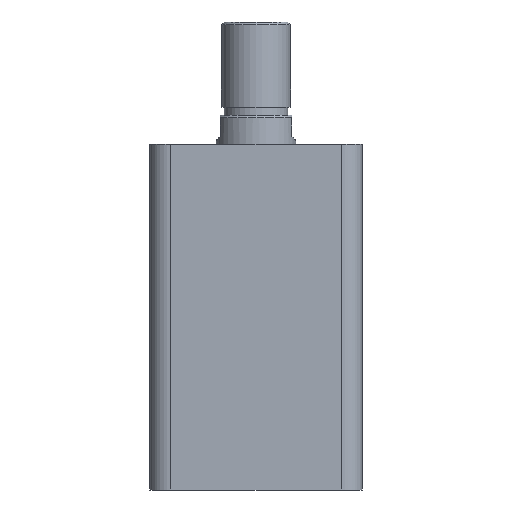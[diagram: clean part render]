
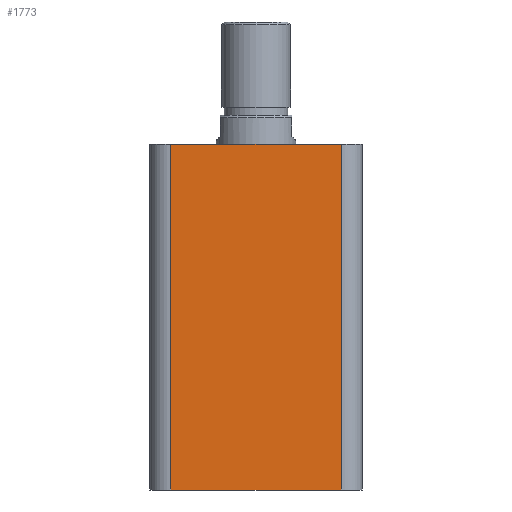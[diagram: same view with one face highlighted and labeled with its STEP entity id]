
A CAD part, front view. The second image highlights one B-rep face of the part: STEP entity #1773.
In plain terms, the highlighted planar face has unit normal (0, -1, 0).
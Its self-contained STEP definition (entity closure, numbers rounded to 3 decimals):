
#14 = VECTOR ( 'NONE', #1956, 1000. ) ;
#15 = LINE ( 'NONE', #1954, #14 ) ;
#128 = EDGE_CURVE ( 'NONE', #904, #831, #15, .T. ) ;
#216 = EDGE_CURVE ( 'NONE', #883, #831, #1661, .T. ) ;
#217 = EDGE_CURVE ( 'NONE', #883, #897, #1643, .T. ) ;
#348 = CARTESIAN_POINT ( 'NONE',  ( 32., -40., 0. ) ) ;
#423 = CARTESIAN_POINT ( 'NONE',  ( -32., -40., 0. ) ) ;
#449 = CARTESIAN_POINT ( 'NONE',  ( 32., -40., 130. ) ) ;
#500 = CARTESIAN_POINT ( 'NONE',  ( -32., -40., 130. ) ) ;
#635 = EDGE_LOOP ( 'NONE', ( #2414, #2424, #2419, #2431 ) ) ;
#831 = VERTEX_POINT ( 'NONE', #449 ) ;
#883 = VERTEX_POINT ( 'NONE', #500 ) ;
#897 = VERTEX_POINT ( 'NONE', #423 ) ;
#904 = VERTEX_POINT ( 'NONE', #348 ) ;
#1042 = DIRECTION ( 'NONE',  ( 0., 0., -1. ) ) ;
#1043 = CARTESIAN_POINT ( 'NONE',  ( -32., -40., 130. ) ) ;
#1044 = DIRECTION ( 'NONE',  ( 1., 0., 0. ) ) ;
#1048 = CARTESIAN_POINT ( 'NONE',  ( -40., -40., 130. ) ) ;
#1294 = FACE_OUTER_BOUND ( 'NONE', #635, .T. ) ;
#1474 = VECTOR ( 'NONE', #2106, 1000. ) ;
#1477 = LINE ( 'NONE', #2100, #1474 ) ;
#1640 = VECTOR ( 'NONE', #1042, 1000. ) ;
#1642 = VECTOR ( 'NONE', #1044, 1000. ) ;
#1643 = LINE ( 'NONE', #1043, #1640 ) ;
#1661 = LINE ( 'NONE', #1048, #1642 ) ;
#1773 = ADVANCED_FACE ( 'NONE', ( #1294 ), #2038, .F. ) ;
#1954 = CARTESIAN_POINT ( 'NONE',  ( 32., -40., 130. ) ) ;
#1956 = DIRECTION ( 'NONE',  ( 0., 0., 1. ) ) ;
#1960 = DIRECTION ( 'NONE',  ( 0., 0., 1. ) ) ;
#2023 = DIRECTION ( 'NONE',  ( 0., 1., 0. ) ) ;
#2038 = PLANE ( 'NONE',  #2641 ) ;
#2043 = CARTESIAN_POINT ( 'NONE',  ( -40., -40., 130. ) ) ;
#2100 = CARTESIAN_POINT ( 'NONE',  ( -40., -40., 0. ) ) ;
#2106 = DIRECTION ( 'NONE',  ( 1., 0., 0. ) ) ;
#2414 = ORIENTED_EDGE ( 'NONE', *, *, #216, .F. ) ;
#2419 = ORIENTED_EDGE ( 'NONE', *, *, #2482, .T. ) ;
#2424 = ORIENTED_EDGE ( 'NONE', *, *, #217, .T. ) ;
#2431 = ORIENTED_EDGE ( 'NONE', *, *, #128, .T. ) ;
#2482 = EDGE_CURVE ( 'NONE', #897, #904, #1477, .T. ) ;
#2641 = AXIS2_PLACEMENT_3D ( 'NONE', #2043, #2023, #1960 ) ;
